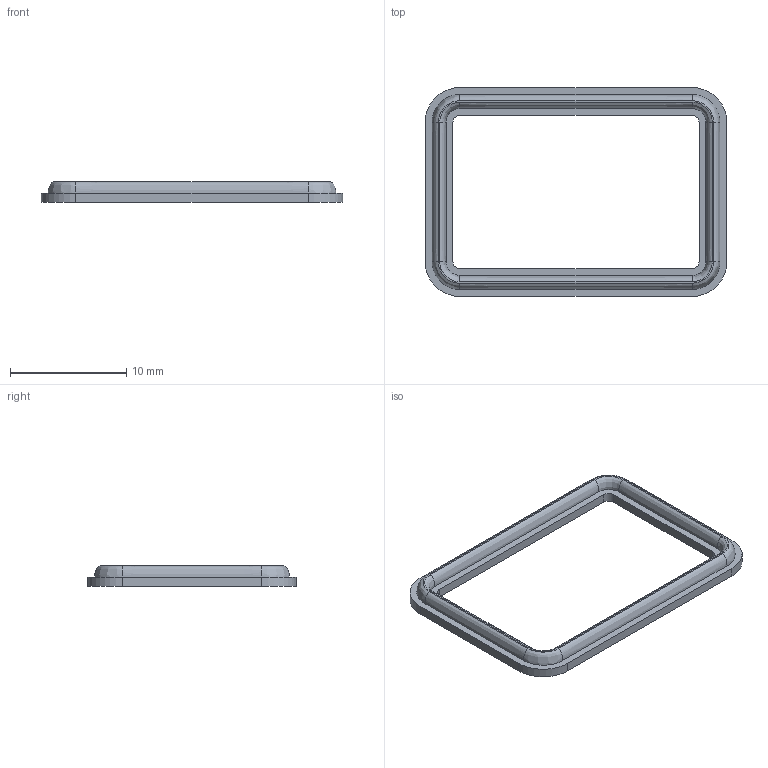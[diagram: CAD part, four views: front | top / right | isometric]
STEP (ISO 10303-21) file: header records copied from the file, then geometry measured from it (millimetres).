
FILE_DESCRIPTION(('FreeCAD Model'),'2;1');
FILE_NAME('Open CASCADE Shape Model','2026-09-29T21:45:23',('Author'),( ''),'Open CASCADE STEP processor 7.8','FreeCAD','Unknown');
FILE_SCHEMA(('AUTOMOTIVE_DESIGN { 1 0 10303 214 1 1 1 1 }'));
Length unit declared in the file: millimetre
Products named in the file (1): usb_gasket
Bounding box: 26 x 18 x 1.8 mm (x, y, z)
Volume: 215.6 mm3; surface area: 583.9 mm2
Topology: 1 solids, 1 shells, 36 faces, 96 edges, 64 vertices
Faces by surface type: bspline 16, plane 12, cylinder 8
Entity records: 2138 total; most frequent: CARTESIAN_POINT 1381, ORIENTED_EDGE 192, DIRECTION 106, EDGE_CURVE 96, VERTEX_POINT 64, FACE_BOUND 40, EDGE_LOOP 40, AXIS2_PLACEMENT_3D 37
